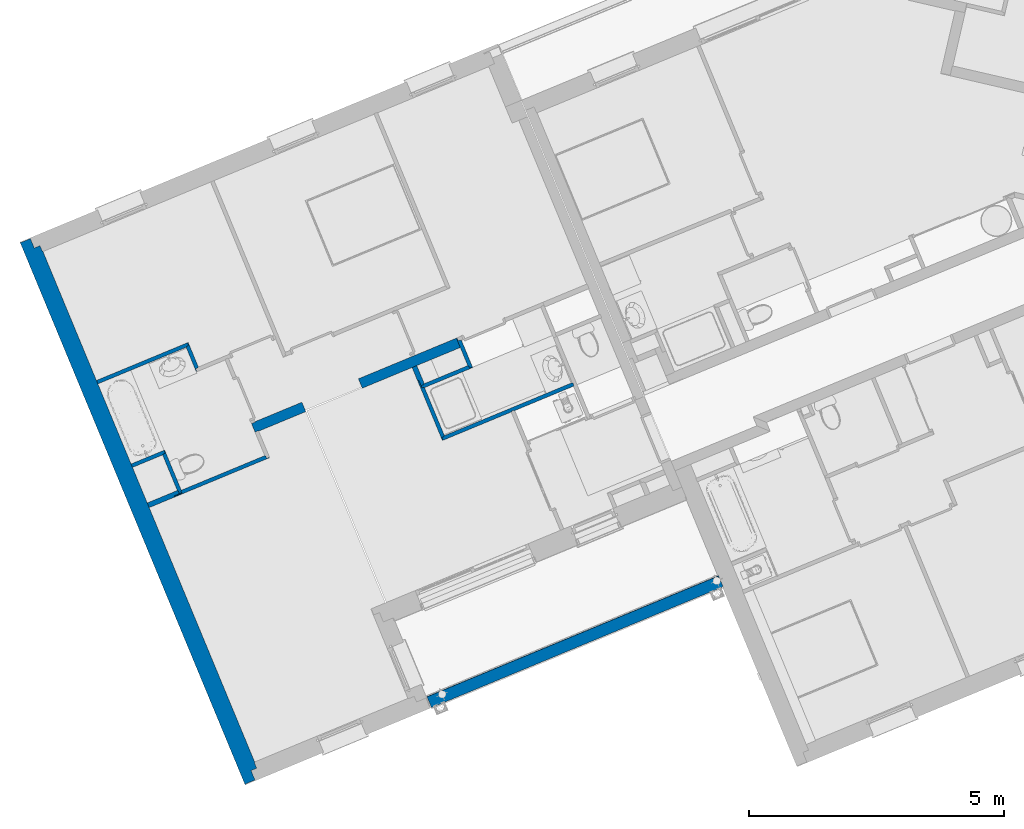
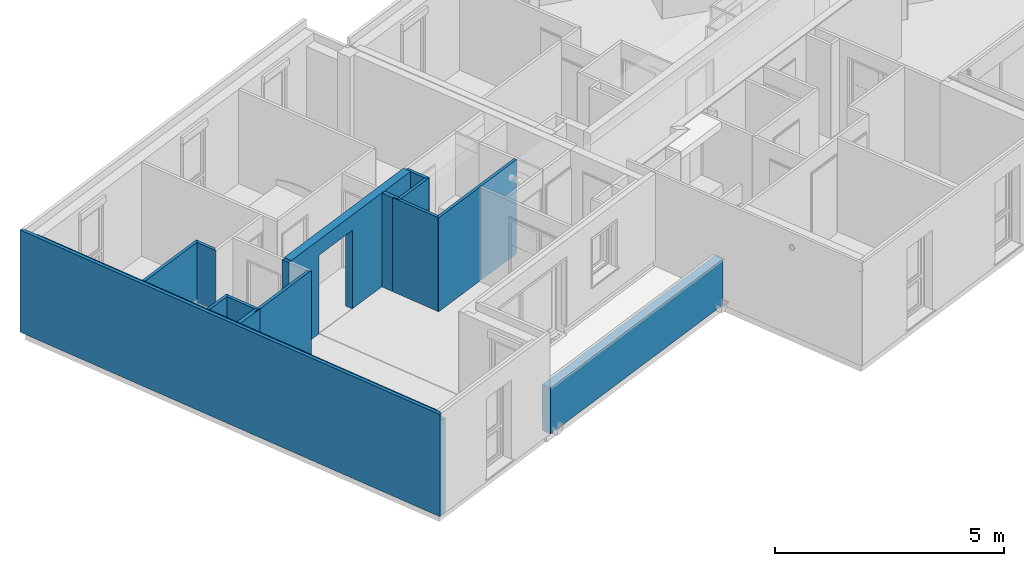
# One storey, part 35 of 91: 14 walls, 1 opening.
"""IFC2X3 building model written with IfcOpenShell, lengths in metres."""

from ifc_helpers import new_model, entity, si_unit, converted_unit, derived_unit, money_unit, direction, frame, origin_with_axes, place, context, subcontext, project, spatial, faceted_brep, material, material_list, type_object, element, save


model = new_model("IFC2X3")

# Units and contexts
model_context = context("Model", 3, precision=1e-05, world=origin_with_axes(), true_north=direction((0.0, 1.0)))
body_context = subcontext(model_context, "Body", "Model", "MODEL_VIEW")
ifc_project = project(units=[si_unit("LENGTHUNIT", "METRE"), si_unit("AREAUNIT", "SQUARE_METRE"), si_unit("VOLUMEUNIT", "CUBIC_METRE"), converted_unit("PLANEANGLEUNIT", "DEGREE", entity("IfcPlaneAngleMeasure", 0.0174532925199), si_unit("PLANEANGLEUNIT", "RADIAN"), dimensions=[0, 0, 0, 0, 0, 0, 0]), si_unit("SOLIDANGLEUNIT", "STERADIAN"), money_unit("EUR"), converted_unit("TIMEUNIT", "Year", entity("IfcTimeMeasure", 31556926.0), si_unit("TIMEUNIT", "SECOND"), dimensions=[0, 0, 1, 0, 0, 0, 0]), si_unit("MASSUNIT", "GRAM", prefix="KILO"), si_unit("THERMODYNAMICTEMPERATUREUNIT", "DEGREE_CELSIUS"), si_unit("LUMINOUSINTENSITYUNIT", "LUMEN"), si_unit("ENERGYUNIT", "JOULE", prefix="MEGA"), derived_unit("THERMALCONDUCTANCEUNIT", [(si_unit("POWERUNIT", "WATT"), 1), (si_unit("LENGTHUNIT", "METRE"), -1), (si_unit("THERMODYNAMICTEMPERATUREUNIT", "KELVIN"), -1)]), derived_unit("SPECIFICHEATCAPACITYUNIT", [(si_unit("ENERGYUNIT", "JOULE"), 1), (si_unit("MASSUNIT", "GRAM", prefix="KILO"), -1), (si_unit("THERMODYNAMICTEMPERATUREUNIT", "KELVIN"), -1)]), derived_unit("MASSDENSITYUNIT", [(si_unit("MASSUNIT", "GRAM", prefix="KILO"), 1), (si_unit("VOLUMEUNIT", "CUBIC_METRE"), -1)])], contexts=[model_context])

# Site, building, storey
site_placement = place(None, origin_with_axes())
site = spatial("IfcSite", under=ifc_project, at=site_placement, Name="Site", CompositionType="ELEMENT")
building_placement = place(site_placement, origin_with_axes())
building = spatial("IfcBuilding", under=site, at=building_placement, Name="Bâtiment", CompositionType="ELEMENT")
storey_placement = place(building_placement, frame((0.0, 0.0, 5.44), z_axis=(0.0, 0.0, 1.0), x_axis=(1.0, 0.0, 0.0)))
storey = spatial("IfcBuildingStorey", under=building, at=storey_placement, Name="R+2", CompositionType="ELEMENT", Elevation=5.44)

# Walls
ifc_material_1 = material(Name="Finition int - Plaque de plâtre")
ifc_material_2 = material(Name="Isolation - Polystyrène extrudé")
ifc_material_3 = material(Name="Bloc ELITHERM")
ifc_material_4 = material(Name="Isolation - Polystyrène expansé")
ifc_material_5 = material(Name="Mortier")
ifc_material_6 = material(Name="Béton cellulaire")
ifc_material_7 = material(Name="Finition ext - Crépis")
ifc_material_list_1 = material_list([ifc_material_1, ifc_material_2, ifc_material_3, ifc_material_4, ifc_material_5, ifc_material_6, ifc_material_7])
wall_type_1 = type_object("IfcWallType", Name="Mur ALKERN + planelle 21 345 x 2720", PredefinedType="USERDEFINED")
wall_1_placement = place(storey_placement, frame((-35.4006367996, -17.9386027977, 0.0), z_axis=(0.0, 0.0, 1.0), x_axis=(0.383112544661, -0.923701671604, 0.0)))
element("IfcWall", 1, at=wall_1_placement, inside=storey, type_object=wall_type_1, material=ifc_material_list_1, Name="Mue bloc ALKERN isolé", ObjectType="SOLIDWALL", context=body_context, shape_type="Brep", body=[
    faceted_brep([(11.1971872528, 0.34499998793, 0.0), (0.335000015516, 0.34499998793, 0.0), (0.335000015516, 0.34499998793, 2.51), (11.1971872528, 0.34499998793, 2.51), (11.1971872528, 0.335000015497, 0.0), (0.335000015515, 0.335000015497, 0.0), (0.335000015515, 0.335000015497, 2.51), (11.1971872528, 0.335000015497, 2.51)], [[[0, 1, 2, 3]], [[4, 5, 1, 0]], [[5, 6, 2, 1]], [[3, 2, 6, 7]], [[4, 0, 3, 7]], [[7, 6, 5, 4]]]),
    faceted_brep([(11.3171872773, 0.335000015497, 0.0), (0.214999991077, 0.335000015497, 0.0), (0.214999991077, 0.335000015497, 2.50999999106), (11.3171872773, 0.335000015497, 2.50999999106), (11.3171872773, 0.215000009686, 0.0), (0.214999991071, 0.215000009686, 0.0), (0.214999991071, 0.215000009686, 2.50999999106), (11.3171872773, 0.215000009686, 2.50999999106)], [[[0, 1, 2, 3]], [[4, 5, 1, 0]], [[5, 6, 2, 1]], [[3, 2, 6, 7]], [[4, 0, 3, 7]], [[7, 6, 5, 4]]]),
    faceted_brep([(0.0149999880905, 0.214999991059, 0.0), (0.0149999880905, 0.214999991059, 2.50999999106), (11.5171872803, 0.214999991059, 2.50999999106), (11.5171872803, 0.214999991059, 0.0), (0.0149999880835, 0.0829999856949, 2.50999999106), (0.0149999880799, 0.015, 0.0), (0.0149999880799, 0.015, 2.50999999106), (11.5171872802, 0.0829999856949, 2.50999999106), (11.5171872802, 0.015, 2.50999999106), (11.5171872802, 0.015, 0.0)], [[[0, 1, 2, 3]], [[4, 1, 0, 5, 6]], [[1, 4, 7, 2]], [[3, 2, 7, 8, 9]], [[5, 0, 3, 9]], [[6, 5, 9, 8]], [[4, 6, 8, 7]]]),
    faceted_brep([(11.4691872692, 0.083000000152, 2.51999999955), (0.0629999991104, 0.083000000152, 2.51999999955), (0.0629999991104, 0.083000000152, 2.72), (11.4691872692, 0.083000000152, 2.72), (11.4691872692, 0.0630000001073, 2.51999999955), (0.0629999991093, 0.0630000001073, 2.51999999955), (0.0629999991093, 0.0630000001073, 2.72), (11.4691872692, 0.0630000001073, 2.72)], [[[0, 1, 2, 3]], [[4, 5, 1, 0]], [[5, 6, 2, 1]], [[3, 2, 6, 7]], [[4, 0, 3, 7]], [[7, 6, 5, 4]]]),
    faceted_brep([(0.0149999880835, 0.083, 2.50999999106), (0.0149999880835, 0.083, 2.51999999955), (11.5171872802, 0.083, 2.51999999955), (11.5171872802, 0.083, 2.50999999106), (0.0149999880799, 0.015, 2.51999999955), (0.0149999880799, 0.015, 2.50999999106), (11.5171872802, 0.015, 2.51999999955), (11.5171872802, 0.015, 2.50999999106)], [[[0, 1, 2, 3]], [[4, 1, 0, 5]], [[1, 4, 6, 2]], [[3, 2, 6, 7]], [[5, 0, 3, 7]], [[4, 5, 7, 6]]]),
    faceted_brep([(0.0149999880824, 0.0629999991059, 2.51999999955), (0.0149999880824, 0.0629999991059, 2.72), (11.5171872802, 0.0629999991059, 2.72), (11.5171872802, 0.0629999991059, 2.51999999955), (0.0149999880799, 0.015, 2.72), (0.0149999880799, 0.015, 2.51999999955), (11.5171872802, 0.015, 2.72), (11.5171872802, 0.015, 2.51999999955)], [[[0, 1, 2, 3]], [[4, 1, 0, 5]], [[1, 4, 6, 2]], [[3, 2, 6, 7]], [[5, 0, 3, 7]], [[4, 5, 7, 6]]]),
    faceted_brep([(11.5321872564, 0.0149999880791, 0.0), (7.00435975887e-09, 0.0149999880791, 0.0), (7.00435975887e-09, 0.0149999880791, 2.72), (11.5321872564, 0.0149999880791, 2.72), (11.5321872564, 0.0, 0.0), (7.00355329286e-09, 0.0, 0.0), (7.00355329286e-09, 0.0, 2.72), (11.5321872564, 0.0, 2.72)], [[[0, 1, 2, 3]], [[4, 5, 1, 0]], [[5, 6, 2, 1]], [[3, 2, 6, 7]], [[4, 0, 3, 7]], [[7, 6, 5, 4]]]),
])
ifc_material_8 = material(Name="Isolation - Laine de roche")
ifc_material_list_2 = material_list([ifc_material_1, ifc_material_8, ifc_material_1])
wall_type_2 = type_object("IfcWallType", Name="3 - Cloison 72mm Placostil 74", PredefinedType="USERDEFINED")
wall_2_placement = place(storey_placement, frame((-27.532079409, -20.8233504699, 0.0), z_axis=(0.0, 0.0, 1.0), x_axis=(0.383112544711, -0.923701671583, 0.0)))
element("IfcWall", 2, at=wall_2_placement, inside=storey, type_object=wall_type_2, material=ifc_material_list_2, Name="Cloison Placostil 72/48", ObjectType="PARTITIONING", context=body_context, shape_type="Brep", body=[
    faceted_brep([(1.01999999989, 0.074, 0.0), (0.0, 0.074, 0.0), (0.0, 0.074, 2.5), (1.01999999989, 0.074, 2.5), (1.0199999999, 0.061, 0.0), (0.0, 0.061, 0.0), (0.0, 0.061, 2.5), (1.0199999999, 0.061, 2.5)], [[[0, 1, 2, 3]], [[4, 5, 1, 0]], [[5, 6, 2, 1]], [[3, 2, 6, 7]], [[3, 7, 4, 0]], [[7, 6, 5, 4]]]),
    faceted_brep([(1.0329999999, 0.061, 0.0), (-0.0130000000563, 0.061, 0.0), (-0.0130000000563, 0.061, 2.5), (1.0329999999, 0.061, 2.5), (-0.174000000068, 0.026, 0.0), (-0.013000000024, 0.026, 0.0), (1.03299999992, 0.013, 0.0), (-0.174000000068, 0.013, 0.0), (-0.013000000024, 0.026, 2.5), (-0.174000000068, 0.026, 2.5), (-0.174000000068, 0.013, 2.5), (1.03299999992, 0.013, 2.5)], [[[0, 1, 2, 3]], [[4, 5, 1, 0, 6, 7]], [[5, 8, 2, 1]], [[2, 8, 9, 10, 11, 3]], [[3, 11, 6, 0]], [[4, 9, 8, 5]], [[11, 10, 7, 6]], [[10, 9, 4, 7]]]),
    faceted_brep([(1.08099999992, 0.0, 0.0), (-0.174000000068, 0.0, 0.0), (-0.174000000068, 0.013, 0.0), (1.08099999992, 0.013, 0.0), (1.08099999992, 0.0, 2.5), (-0.174000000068, 0.0, 2.5), (-0.174000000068, 0.013, 2.5), (1.08099999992, 0.013, 2.5)], [[[0, 1, 2, 3]], [[4, 5, 1, 0]], [[1, 5, 6, 2]], [[3, 2, 6, 7]], [[7, 4, 0, 3]], [[7, 6, 5, 4]]]),
])
wall_3_placement = place(storey_placement, frame((-24.5395214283, -20.766528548, 0.0), z_axis=(0.0, 0.0, 1.0), x_axis=(-0.923701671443, -0.383112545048, 0.0)))
element("IfcWall", 3, at=wall_3_placement, inside=storey, type_object=wall_type_2, material=ifc_material_list_2, Name="Cloison Placostil 72/48", ObjectType="PARTITIONING", context=body_context, shape_type="Brep", body=[
    faceted_brep([(1.26300000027, -0.013, 2.5), (1.26300000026, 0.0, 2.5), (0.0, 0.0, 2.5), (0.0, -0.013, 2.5), (1.26300000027, -0.013, 0.0), (1.26300000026, 0.0, 0.0), (0.0, 0.0, 0.0), (0.0, -0.013, 0.0)], [[[0, 1, 2, 3]], [[1, 0, 4, 5]], [[1, 5, 6, 2]], [[7, 3, 2, 6]], [[4, 0, 3, 7]], [[5, 4, 7, 6]]]),
    faceted_brep([(2.78600000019, -0.013, 2.5), (2.78600000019, 0.0, 2.5), (1.31100000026, 0.0, 2.5), (1.31100000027, -0.013, 2.5), (2.78600000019, -0.013, 0.0), (2.78600000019, 0.0, 0.0), (1.31100000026, 0.0, 0.0), (1.31100000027, -0.013, 0.0)], [[[0, 1, 2, 3]], [[1, 0, 4, 5]], [[1, 5, 6, 2]], [[7, 3, 2, 6]], [[4, 0, 3, 7]], [[5, 4, 7, 6]]]),
    faceted_brep([(2.77300000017, -0.061, 2.5), (2.77300000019, -0.013, 2.5), (-0.0130000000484, -0.013, 2.5), (-0.0130000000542, -0.061, 2.5), (2.77300000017, -0.061, 0.0), (2.77300000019, -0.013, 0.0), (-0.0130000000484, -0.013, 0.0), (-0.0130000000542, -0.061, 0.0)], [[[0, 1, 2, 3]], [[1, 0, 4, 5]], [[1, 5, 6, 2]], [[7, 3, 2, 6]], [[4, 0, 3, 7]], [[5, 4, 7, 6]]]),
    faceted_brep([(2.72500000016, -0.074, 2.5), (2.72500000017, -0.061, 2.5), (0.0, -0.061, 2.5), (0.0, -0.074, 2.5), (2.72500000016, -0.074, 0.0), (2.72500000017, -0.061, 0.0), (0.0, -0.061, 0.0), (0.0, -0.074, 0.0)], [[[0, 1, 2, 3]], [[1, 0, 4, 5]], [[1, 5, 6, 2]], [[7, 3, 2, 6]], [[4, 0, 3, 7]], [[5, 4, 7, 6]]]),
])
wall_4_placement = place(storey_placement, frame((-30.5010440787, -22.1691142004, 0.0), z_axis=(0.0, 0.0, 1.0), x_axis=(-0.923701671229, -0.383112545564, 0.0)))
element("IfcWall", 4, at=wall_4_placement, inside=storey, type_object=wall_type_2, material=ifc_material_list_2, Name="Cloison Placostil 72/48", ObjectType="PARTITIONING", context=body_context, shape_type="Brep", body=[
    faceted_brep([(0.0129999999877, -0.013, 2.5), (1.84700000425, -0.013, 2.5), (1.84700000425, 0.0, 2.5), (0.013, 0.0, 2.5), (0.0129999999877, -0.013, 0.0), (1.84700000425, -0.013, 0.0), (1.84700000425, 0.0, 0.0), (0.013, 0.0, 0.0)], [[[0, 1, 2, 3]], [[4, 5, 1, 0]], [[5, 6, 2, 1]], [[3, 2, 6, 7]], [[4, 0, 3, 7]], [[7, 6, 5, 4]]]),
    faceted_brep([(1.86000000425, -0.061, 2.5), (1.86000000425, -0.026, 2.5), (1.90800000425, -0.026, 2.5), (2.02100000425, -0.026, 2.5), (2.02100000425, -0.013, 2.5), (0.0609999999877, -0.013, 2.5), (0.0609999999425, -0.061, 2.5), (1.86000000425, -0.026, 0.0), (1.86000000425, -0.061, 0.0), (1.90800000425, -0.026, 0.0), (2.02100000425, -0.026, 0.0), (2.02100000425, -0.013, 0.0), (0.0609999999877, -0.013, 0.0), (0.0609999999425, -0.061, 0.0)], [[[0, 1, 2, 3, 4, 5, 6]], [[7, 1, 0, 8]], [[3, 2, 1, 7, 9, 10]], [[4, 3, 10, 11]], [[11, 12, 5, 4]], [[13, 6, 5, 12]], [[13, 8, 0, 6]], [[9, 7, 8, 13, 12, 11, 10]]]),
    faceted_brep([(0.0739999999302, -0.074, 2.5), (1.84700000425, -0.074, 2.5), (1.84700000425, -0.061, 2.5), (0.0739999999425, -0.061, 2.5), (0.0739999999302, -0.074, 0.0), (1.84700000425, -0.074, 0.0), (1.84700000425, -0.061, 0.0), (0.0739999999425, -0.061, 0.0)], [[[0, 1, 2, 3]], [[4, 5, 1, 0]], [[5, 6, 2, 1]], [[3, 2, 6, 7]], [[4, 0, 3, 7]], [[7, 6, 5, 4]]]),
])
wall_5_placement = place(storey_placement, frame((-32.1693082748, -19.9357791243, 0.0), z_axis=(0.0, 0.0, 1.0), x_axis=(0.383112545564, -0.923701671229, 0.0)))
element("IfcWall", 5, at=wall_5_placement, inside=storey, type_object=wall_type_2, material=ifc_material_list_2, Name="Cloison Placostil 72/48", ObjectType="PARTITIONING", context=body_context, shape_type="Brep", body=[
    faceted_brep([(0.523282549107, 0.074, 0.0), (0.523282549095, 0.061, 0.0), (0.0130000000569, 0.061, 0.0), (0.013000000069, 0.074, 0.0), (0.523282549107, 0.074, 2.5), (0.523282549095, 0.061, 2.5), (0.0130000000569, 0.061, 2.5), (0.013000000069, 0.074, 2.5)], [[[0, 1, 2, 3]], [[1, 0, 4, 5]], [[1, 5, 6, 2]], [[7, 3, 2, 6]], [[4, 0, 3, 7]], [[5, 4, 7, 6]]]),
    faceted_brep([(0.536282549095, 0.061, 0.0), (0.536282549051, 0.013, 0.0), (0.0610000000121, 0.013, 0.0), (0.0610000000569, 0.061, 0.0), (0.536282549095, 0.061, 2.5), (0.536282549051, 0.013, 2.5), (0.0610000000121, 0.013, 2.5), (0.0610000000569, 0.061, 2.5)], [[[0, 1, 2, 3]], [[1, 0, 4, 5]], [[1, 5, 6, 2]], [[7, 3, 2, 6]], [[4, 0, 3, 7]], [[5, 4, 7, 6]]]),
    faceted_brep([(0.584282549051, 0.013, 0.0), (0.584282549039, 0.0, 0.0), (0.074, 0.0, 0.0), (0.0740000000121, 0.013, 0.0), (0.584282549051, 0.013, 2.5), (0.584282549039, 0.0, 2.5), (0.074, 0.0, 2.5), (0.0740000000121, 0.013, 2.5)], [[[0, 1, 2, 3]], [[1, 0, 4, 5]], [[1, 5, 6, 2]], [[7, 3, 2, 6]], [[4, 0, 3, 7]], [[5, 4, 7, 6]]]),
])
wall_6_placement = place(storey_placement, frame((-33.9009166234, -20.6539773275, 0.0), z_axis=(0.0, 0.0, 1.0), x_axis=(0.923701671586, 0.383112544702, 0.0)))
element("IfcWall", 6, at=wall_6_placement, inside=storey, type_object=wall_type_2, material=ifc_material_list_2, Name="Cloison Placostil 72/48", ObjectType="PARTITIONING", context=body_context, shape_type="Brep", body=[
    faceted_brep([(1.94864026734, -0.013, 2.5), (1.94864026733, 0.0, 2.5), (0.0, 0.0, 2.5), (0.0, -0.013, 2.5), (1.94864026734, -0.013, 0.0), (1.94864026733, 0.0, 0.0), (0.0, 0.0, 0.0), (0.0, -0.013, 0.0)], [[[0, 1, 2, 3]], [[1, 0, 4, 5]], [[1, 5, 6, 2]], [[7, 3, 2, 6]], [[4, 0, 3, 7]], [[5, 4, 7, 6]]]),
    faceted_brep([(1.93564026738, -0.061, 2.5), (1.93564026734, -0.013, 2.5), (0.0, -0.013, 2.5), (0.0, -0.061, 2.5), (1.93564026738, -0.061, 0.0), (1.93564026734, -0.013, 0.0), (0.0, -0.013, 0.0), (0.0, -0.061, 0.0)], [[[0, 1, 2, 3]], [[1, 0, 4, 5]], [[1, 5, 6, 2]], [[7, 3, 2, 6]], [[4, 0, 3, 7]], [[5, 4, 7, 6]]]),
    faceted_brep([(1.8876402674, -0.074, 2.5), (1.88764026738, -0.061, 2.5), (0.0, -0.061, 2.5), (0.0, -0.074, 2.5), (1.8876402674, -0.074, 0.0), (1.88764026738, -0.061, 0.0), (0.0, -0.061, 0.0), (0.0, -0.074, 0.0)], [[[0, 1, 2, 3]], [[1, 0, 4, 5]], [[1, 5, 6, 2]], [[7, 3, 2, 6]], [[4, 0, 3, 7]], [[5, 4, 7, 6]]]),
])

# Wall, opening
ifc_material_9 = material(Name="Finition int - Enduit plâtre")
ifc_material_10 = material(Name="Béton")
ifc_material_list_3 = material_list([ifc_material_9, ifc_material_10, ifc_material_9])
wall_type_3 = type_object("IfcWallType", Name="2 - Murs Béton 18 + Enduit 2 Faces 200", PredefinedType="USERDEFINED")
wall_7_placement = place(storey_placement, frame((-30.7876122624, -21.4781853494, 0.0), z_axis=(0.0, 0.0, 1.0), x_axis=(0.923701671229, 0.383112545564, 0.0)))
wall_7 = element("IfcWall", 7, at=wall_7_placement, inside=storey, type_object=wall_type_3, material=ifc_material_list_3, Name="M_Ext-008", ObjectType="SOLIDWALL", context=body_context, shape_type="Brep", body=[
    faceted_brep([(1.00001659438, 0.005, 0.02), (1.00001659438, 0.005, 2.1), (2.20001659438, 0.005, 2.1), (2.20001659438, 0.005, 0.02), (4.28201659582, 0.005, 0.02), (4.28201659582, 0.005, 2.51), (0.0, 0.005, 2.51), (0.0, 0.005, 2.5), (0.0, 0.005, 0.02), (1.00001659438, 0.015, 0.02), (1.00001659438, 0.015, 2.1), (2.20001659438, 0.015, 2.1), (2.20001659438, 0.015, 0.02), (4.28201659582, 0.015, 0.02), (4.28201659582, 0.015, 2.51), (0.0, 0.015, 2.51), (0.0, 0.015, 2.5), (0.0, 0.015, 0.02)], [[[0, 1, 2, 3, 4, 5, 6, 7, 8]], [[1, 0, 9, 10]], [[2, 1, 10, 11]], [[3, 2, 11, 12]], [[3, 12, 13, 4]], [[13, 14, 5, 4]], [[14, 15, 6, 5]], [[16, 7, 6, 15]], [[8, 7, 16, 17]], [[9, 0, 8, 17]], [[10, 9, 17, 16, 15, 14, 13, 12, 11]]]),
    faceted_brep([(1.00001659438, -0.175, 0.0), (1.00001659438, -0.175, 2.1), (2.20001659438, -0.175, 2.1), (2.20001659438, -0.175, 0.0), (4.28201659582, -0.175, 0.0), (4.28201659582, -0.175, 2.51), (0.0, -0.175, 2.51), (0.0, -0.175, 2.5), (-0.0740000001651, -0.175, 2.5), (-0.0740000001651, -0.175, 0.0), (1.00001659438, 0.005, 0.0), (1.00001659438, 0.005, 2.1), (2.20001659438, 0.005, 2.1), (2.20001659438, 0.005, 0.0), (4.28201659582, 0.005, 0.0), (4.28201659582, 0.005, 2.51), (0.0, 0.005, 2.51), (0.0, 0.005, 2.5), (-0.0739999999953, 0.005, 2.5), (-0.0739999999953, 0.005, 0.0)], [[[0, 1, 2, 3, 4, 5, 6, 7, 8, 9]], [[1, 0, 10, 11]], [[2, 1, 11, 12]], [[3, 2, 12, 13]], [[3, 13, 14, 4]], [[15, 5, 4, 14]], [[16, 6, 5, 15]], [[7, 6, 16, 17]], [[18, 8, 7, 17]], [[9, 8, 18, 19]], [[10, 0, 9, 19]], [[11, 10, 19, 18, 17, 16, 15, 14, 13, 12]]]),
    faceted_brep([(1.00001659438, -0.185, 0.02), (1.00001659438, -0.185, 2.1), (2.20001659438, -0.185, 2.1), (2.20001659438, -0.185, 0.02), (4.28201659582, -0.185, 0.02), (4.28201659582, -0.185, 2.51), (0.0, -0.185, 2.51), (-1.74480874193e-10, -0.185, 2.5), (-1.74480874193e-10, -0.185, 0.02), (1.00001659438, -0.175, 0.02), (1.00001659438, -0.175, 2.1), (2.20001659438, -0.175, 2.1), (2.20001659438, -0.175, 0.02), (4.28201659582, -0.175, 0.02), (4.28201659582, -0.175, 2.51), (0.0, -0.175, 2.51), (-1.65044866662e-10, -0.175, 2.5), (-1.65044866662e-10, -0.175, 0.02)], [[[0, 1, 2, 3, 4, 5, 6, 7, 8]], [[1, 0, 9, 10]], [[2, 1, 10, 11]], [[3, 2, 11, 12]], [[3, 12, 13, 4]], [[13, 14, 5, 4]], [[14, 15, 6, 5]], [[16, 7, 6, 15]], [[8, 7, 16, 17]], [[9, 0, 8, 17]], [[10, 9, 17, 16, 15, 14, 13, 12, 11]]]),
])
opening_placement = place(wall_7_placement, frame((1.60001659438, 0.0, 0.0), z_axis=(0.0, 0.0, 1.0), x_axis=(1.0, 0.0, 0.0)))
element("IfcOpeningElement", 8, at=opening_placement, cuts=wall_7, Name="Por-003", context=body_context, shape_type="Brep", body=[
    faceted_brep([(0.6, 0.4, 0.0), (0.6, 0.4, 2.1), (0.6, -0.2, 2.1), (0.6, -0.2, 0.0), (-0.6, 0.4, 0.0), (-0.6, 0.4, 2.1), (-0.6, -0.2, 2.1), (-0.6, -0.2, 0.0)], [[[0, 1, 2, 3]], [[0, 4, 5, 1]], [[1, 5, 6, 2]], [[3, 2, 6, 7]], [[4, 0, 3, 7]], [[5, 4, 7, 6]]]),
])

# Walls
wall_type_4 = type_object("IfcWallType", Name="3 - Cloison Gaine Technique 72mm 74", PredefinedType="USERDEFINED")
wall_8_placement = place(storey_placement, frame((-32.5626756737, -22.0194648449, 0.0), z_axis=(0.0, 0.0, 1.0), x_axis=(0.383112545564, -0.923701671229, 0.0)))
element("IfcWall", 9, at=wall_8_placement, inside=storey, type_object=wall_type_4, material=ifc_material_list_2, Name="Cloison Placostil 72/48", ObjectType="PARTITIONING", context=body_context, shape_type="Brep", body=[
    faceted_brep([(0.013, -0.013, 2.5), (0.867068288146, -0.013, 2.5), (0.867068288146, 0.0, 2.5), (0.013, 0.0, 2.5), (0.013, -0.013, 0.0), (0.867068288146, -0.013, 0.0), (0.867068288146, 0.0, 0.0), (0.013, 0.0, 0.0)], [[[0, 1, 2, 3]], [[4, 5, 1, 0]], [[5, 6, 2, 1]], [[3, 2, 6, 7]], [[7, 4, 0, 3]], [[7, 6, 5, 4]]]),
    faceted_brep([(0.061, -0.061, 2.5), (0.902068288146, -0.061, 2.5), (0.902068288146, -0.013, 2.5), (0.061, -0.013, 2.5), (0.061, -0.061, 0.0), (0.902068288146, -0.061, 0.0), (0.902068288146, -0.013, 0.0), (0.061, -0.013, 0.0)], [[[0, 1, 2, 3]], [[4, 5, 1, 0]], [[6, 2, 1, 5]], [[3, 2, 6, 7]], [[7, 4, 0, 3]], [[7, 6, 5, 4]]]),
    faceted_brep([(0.074, -0.074, 2.5), (0.841068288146, -0.074, 2.5), (0.841068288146, -0.061, 2.5), (0.074, -0.061, 2.5), (0.074, -0.074, 0.0), (0.841068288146, -0.074, 0.0), (0.841068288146, -0.061, 0.0), (0.074, -0.061, 0.0)], [[[0, 1, 2, 3]], [[4, 5, 1, 0]], [[6, 2, 1, 5]], [[3, 2, 6, 7]], [[7, 4, 0, 3]], [[7, 6, 5, 4]]]),
])
wall_9_placement = place(storey_placement, frame((-26.5178549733, -20.4026928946, 0.0), z_axis=(0.0, 0.0, 1.0), x_axis=(-0.923701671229, -0.383112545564, 0.0)))
element("IfcWall", 10, at=wall_9_placement, inside=storey, type_object=wall_type_4, material=ifc_material_list_2, Name="Cloison Placostil 72/48", ObjectType="PARTITIONING", context=body_context, shape_type="Brep", body=[
    faceted_brep([(0.013, -0.013, 2.5), (1.03700000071, -0.013, 2.5), (1.03700000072, 0.0, 2.5), (0.013, 0.0, 2.5), (0.013, -0.013, 0.0), (1.03700000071, -0.013, 0.0), (1.03700000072, 0.0, 0.0), (0.013, 0.0, 0.0)], [[[0, 1, 2, 3]], [[4, 5, 1, 0]], [[5, 6, 2, 1]], [[3, 2, 6, 7]], [[7, 4, 0, 3]], [[7, 6, 5, 4]]]),
    faceted_brep([(0.061, -0.061, 2.5), (1.07200000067, -0.061, 2.5), (1.07200000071, -0.013, 2.5), (0.061, -0.013, 2.5), (0.061, -0.061, 0.0), (1.07200000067, -0.061, 0.0), (1.07200000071, -0.013, 0.0), (0.061, -0.013, 0.0)], [[[0, 1, 2, 3]], [[4, 5, 1, 0]], [[6, 2, 1, 5]], [[3, 2, 6, 7]], [[7, 4, 0, 3]], [[7, 6, 5, 4]]]),
    faceted_brep([(0.074, -0.074, 2.5), (1.01100000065, -0.074, 2.5), (1.01100000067, -0.061, 2.5), (0.074, -0.061, 2.5), (0.074, -0.074, 0.0), (1.01100000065, -0.074, 0.0), (1.01100000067, -0.061, 0.0), (0.074, -0.061, 0.0)], [[[0, 1, 2, 3]], [[4, 5, 1, 0]], [[6, 2, 1, 5]], [[3, 2, 6, 7]], [[7, 4, 0, 3]], [[7, 6, 5, 4]]]),
])
wall_10_placement = place(storey_placement, frame((-26.7413488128, -19.8638391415, 0.0), z_axis=(0.0, 0.0, 1.0), x_axis=(0.383112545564, -0.923701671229, 0.0)))
element("IfcWall", 11, at=wall_10_placement, inside=storey, type_object=wall_type_4, material=ifc_material_list_2, Name="Cloison Placostil 72/48", ObjectType="PARTITIONING", context=body_context, shape_type="Brep", body=[
    faceted_brep([(0.583363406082, -0.013, 2.5), (0.583363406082, 0.0, 2.5), (0.0, 0.0, 2.5), (0.0, -0.013, 2.5), (0.583363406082, -0.013, 0.0), (0.583363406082, 0.0, 0.0), (0.0, 0.0, 0.0), (0.0, -0.013, 0.0)], [[[0, 1, 2, 3]], [[1, 0, 4, 5]], [[1, 5, 6, 2]], [[7, 3, 2, 6]], [[4, 0, 3, 7]], [[5, 4, 7, 6]]]),
    faceted_brep([(0.570363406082, -0.061, 2.5), (0.570363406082, -0.013, 2.5), (-0.013, -0.013, 2.5), (-0.013, -0.061, 2.5), (0.570363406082, -0.061, 0.0), (0.570363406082, -0.013, 0.0), (-0.013, -0.013, 0.0), (-0.013, -0.061, 0.0)], [[[0, 1, 2, 3]], [[1, 0, 4, 5]], [[1, 5, 6, 2]], [[7, 3, 2, 6]], [[4, 0, 3, 7]], [[5, 4, 7, 6]]]),
    faceted_brep([(0.522363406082, -0.074, 2.5), (0.522363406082, -0.061, 2.5), (-0.061, -0.061, 2.5), (-0.061, -0.074, 2.5), (0.522363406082, -0.074, 0.0), (0.522363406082, -0.061, 0.0), (-0.061, -0.061, 0.0), (-0.061, -0.074, 0.0)], [[[0, 1, 2, 3]], [[1, 0, 4, 5]], [[1, 5, 6, 2]], [[7, 3, 2, 6]], [[4, 0, 3, 7]], [[5, 4, 7, 6]]]),
])
wall_11_placement = place(storey_placement, frame((-33.2212749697, -22.2926240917, 0.0), z_axis=(0.0, 0.0, 1.0), x_axis=(0.923701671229, 0.383112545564, 0.0)))
element("IfcWall", 12, at=wall_11_placement, inside=storey, type_object=wall_type_4, material=ifc_material_list_2, Name="Cloison Placostil 72/48", ObjectType="PARTITIONING", context=body_context, shape_type="Brep", body=[
    faceted_brep([(0.713000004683, -0.013, 2.5), (0.713000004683, 0.0, 2.5), (0.0, 0.0, 2.5), (0.0, -0.013, 2.5), (0.713000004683, -0.013, 0.0), (0.713000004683, 0.0, 0.0), (0.0, 0.0, 0.0), (0.0, -0.013, 0.0)], [[[0, 1, 2, 3]], [[1, 0, 4, 5]], [[1, 5, 6, 2]], [[7, 3, 2, 6]], [[4, 0, 3, 7]], [[5, 4, 7, 6]]]),
    faceted_brep([(0.700000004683, -0.061, 2.5), (0.700000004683, -0.013, 2.5), (0.0, -0.013, 2.5), (0.0, -0.061, 2.5), (0.700000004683, -0.061, 0.0), (0.700000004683, -0.013, 0.0), (0.0, -0.013, 0.0), (0.0, -0.061, 0.0)], [[[0, 1, 2, 3]], [[1, 0, 4, 5]], [[1, 5, 6, 2]], [[7, 3, 2, 6]], [[4, 0, 3, 7]], [[5, 4, 7, 6]]]),
    faceted_brep([(0.652000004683, -0.074, 2.5), (0.652000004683, -0.061, 2.5), (0.0, -0.061, 2.5), (0.0, -0.074, 2.5), (0.652000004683, -0.074, 0.0), (0.652000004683, -0.061, 0.0), (0.0, -0.061, 0.0), (0.0, -0.074, 0.0)], [[[0, 1, 2, 3]], [[1, 0, 4, 5]], [[1, 5, 6, 2]], [[7, 3, 2, 6]], [[4, 0, 3, 7]], [[5, 4, 7, 6]]]),
])
ifc_material_list_4 = material_list([ifc_material_1, ifc_material_1, ifc_material_8, ifc_material_1, ifc_material_1])
wall_type_5 = type_object("IfcWallType", Name="3 - Cloison Gaine Technique 98mm 100", PredefinedType="USERDEFINED")
wall_12_placement = place(storey_placement, frame((-27.7073010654, -20.400883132, 0.0), z_axis=(0.0, 0.0, 1.0), x_axis=(0.383112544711, -0.923701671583, 0.0)))
element("IfcWall", 13, at=wall_12_placement, inside=storey, type_object=wall_type_5, material=ifc_material_list_4, Name="Cloison 98 isolée", ObjectType="PARTITIONING", context=body_context, shape_type="Brep", body=[
    faceted_brep([(0.0, 0.1, 0.0), (0.383363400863, 0.1, 0.0), (0.383363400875, 0.087, 0.0), (0.0, 0.087, 0.0), (0.0, 0.1, 2.5), (0.383363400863, 0.1, 2.5), (0.383363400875, 0.087, 2.5), (0.0, 0.087, 2.5)], [[[0, 1, 2, 3]], [[4, 5, 1, 0]], [[6, 2, 1, 5]], [[3, 2, 6, 7]], [[7, 4, 0, 3]], [[7, 6, 5, 4]]]),
    faceted_brep([(0.0, 0.087, 0.0), (0.396363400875, 0.087, 0.0), (0.396363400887, 0.074, 0.0), (0.0, 0.074, 0.0), (0.0, 0.087, 2.5), (0.396363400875, 0.087, 2.5), (0.396363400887, 0.074, 2.5), (0.0, 0.074, 2.5)], [[[0, 1, 2, 3]], [[4, 5, 1, 0]], [[6, 2, 1, 5]], [[3, 2, 6, 7]], [[7, 4, 0, 3]], [[7, 6, 5, 4]]]),
    faceted_brep([(0.0, 0.074, 0.0), (0.396363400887, 0.074, 0.0), (0.396363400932, 0.026, 0.0), (0.0, 0.026, 0.0), (0.0, 0.074, 2.5), (0.396363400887, 0.074, 2.5), (0.396363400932, 0.026, 2.5), (0.0, 0.026, 2.5)], [[[0, 1, 2, 3]], [[4, 5, 1, 0]], [[6, 2, 1, 5]], [[3, 2, 6, 7]], [[7, 4, 0, 3]], [[7, 6, 5, 4]]]),
    faceted_brep([(0.0, 0.013, 2.5), (0.283363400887, 0.013, 2.5), (0.283363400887, 0.026, 2.5), (0.0, 0.026, 2.5), (0.0, 0.013, 0.0), (0.283363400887, 0.013, 0.0), (0.283363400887, 0.026, 0.0), (0.0, 0.026, 0.0)], [[[0, 1, 2, 3]], [[4, 5, 1, 0]], [[5, 6, 2, 1]], [[3, 2, 6, 7]], [[0, 3, 7, 4]], [[7, 6, 5, 4]]]),
    faceted_brep([(0.0, 0.0, 2.5), (0.283363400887, 0.0, 2.5), (0.283363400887, 0.013, 2.5), (0.0, 0.013, 2.5), (0.0, 0.0, 0.0), (0.283363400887, 0.0, 0.0), (0.283363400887, 0.013, 0.0), (0.0, 0.013, 0.0)], [[[0, 1, 2, 3]], [[4, 5, 1, 0]], [[5, 6, 2, 1]], [[3, 2, 6, 7]], [[0, 3, 7, 4]], [[7, 6, 5, 4]]]),
])
wall_13_placement = place(storey_placement, frame((-32.2071210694, -22.8767230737, 0.0), z_axis=(0.0, 0.0, 1.0), x_axis=(-0.923701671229, -0.383112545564, 0.0)))
element("IfcWall", 14, at=wall_13_placement, inside=storey, type_object=wall_type_5, material=ifc_material_list_4, Name="Cloison 98 isolée", ObjectType="PARTITIONING", context=body_context, shape_type="Brep", body=[
    faceted_brep([(0.0, 0.0, 2.5), (0.0, -0.013, 2.5), (0.712999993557, -0.013, 2.5), (0.712999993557, 0.0, 2.5), (0.0, 0.0, 0.0), (0.0, -0.013, 0.0), (0.712999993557, -0.013, 0.0), (0.712999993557, 0.0, 0.0)], [[[0, 1, 2, 3]], [[4, 5, 1, 0]], [[1, 5, 6, 2]], [[7, 3, 2, 6]], [[4, 0, 3, 7]], [[5, 4, 7, 6]]]),
    faceted_brep([(0.712999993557, -0.013, 0.0), (0.174, -0.013, 0.0), (0.174, -0.013, 2.5), (0.712999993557, -0.013, 2.5), (0.712999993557, -0.026, 0.0), (0.174, -0.026, 0.0), (0.174, -0.026, 2.5), (0.712999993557, -0.026, 2.5)], [[[0, 1, 2, 3]], [[4, 5, 1, 0]], [[5, 6, 2, 1]], [[3, 2, 6, 7]], [[0, 3, 7, 4]], [[7, 6, 5, 4]]]),
    faceted_brep([(0.061, -0.026, 2.5), (0.061, -0.074, 2.5), (0.712999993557, -0.074, 2.5), (0.712999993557, -0.026, 2.5), (0.061, -0.026, 0.0), (0.061, -0.074, 0.0), (0.712999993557, -0.074, 0.0), (0.712999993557, -0.026, 0.0)], [[[0, 1, 2, 3]], [[4, 5, 1, 0]], [[1, 5, 6, 2]], [[7, 3, 2, 6]], [[4, 0, 3, 7]], [[5, 4, 7, 6]]]),
    faceted_brep([(0.061, -0.074, 2.5), (0.061, -0.087, 2.5), (0.712999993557, -0.087, 2.5), (0.712999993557, -0.074, 2.5), (0.061, -0.074, 0.0), (0.061, -0.087, 0.0), (0.712999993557, -0.087, 0.0), (0.712999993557, -0.074, 0.0)], [[[0, 1, 2, 3]], [[4, 5, 1, 0]], [[1, 5, 6, 2]], [[7, 3, 2, 6]], [[4, 0, 3, 7]], [[5, 4, 7, 6]]]),
    faceted_brep([(0.074, -0.087, 2.5), (0.074, -0.1, 2.5), (0.712999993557, -0.1, 2.5), (0.712999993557, -0.087, 2.5), (0.074, -0.087, 0.0), (0.074, -0.1, 0.0), (0.712999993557, -0.1, 0.0), (0.712999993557, -0.087, 0.0)], [[[0, 1, 2, 3]], [[4, 5, 1, 0]], [[1, 5, 6, 2]], [[7, 3, 2, 6]], [[4, 0, 3, 7]], [[5, 4, 7, 6]]]),
])
ifc_material_11 = material(Name="Métal - Aluminium")
ifc_material_12 = material(Name="Etanchéité - Bitume")
ifc_material_list_5 = material_list([ifc_material_11, ifc_material_7, ifc_material_12, ifc_material_10, ifc_material_7])
wall_type_6 = type_object("IfcWallType", Name="Acrotère pour planelle 25 isolée TERRASSE ACCESSIBLE (1) 235 x 1220", PredefinedType="USERDEFINED")
wall_14_placement = place(storey_placement, frame((-27.3264857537, -27.074538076, 0.0), z_axis=(0.0, 0.0, 1.0), x_axis=(0.923701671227, 0.38311254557, 0.0)))
element("IfcWall", 15, at=wall_14_placement, inside=storey, type_object=wall_type_6, material=ifc_material_list_5, Name="Muret béton 20cm", ObjectType="PARAPET", context=body_context, shape_type="Brep", body=[
    faceted_brep([(6.19500118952, 0.235484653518, 0.189771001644), (6.19500118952, 0.234250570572, 0.189771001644), (0.0, 0.234250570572, 0.189771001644), (0.0, 0.235484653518, 0.189771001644), (6.19500118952, 0.235484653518, 0.218596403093), (6.19500118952, 0.216045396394, 0.226313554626), (6.19500118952, 0.216045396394, 0.262734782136), (6.19500118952, 0.215, 0.262734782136), (6.19500118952, 0.215, 0.225283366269), (6.19500118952, 0.234250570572, 0.217535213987), (0.0, 0.234250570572, 0.217535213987), (0.0, 0.215, 0.225283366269), (0.0, 0.215, 0.262734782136), (0.0, 0.216045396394, 0.262734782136), (0.0, 0.216045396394, 0.226313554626), (0.0, 0.235484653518, 0.218596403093)], [[[0, 1, 2, 3]], [[0, 4, 5, 6, 7, 8, 9, 1]], [[1, 9, 10, 2]], [[3, 2, 10, 11, 12, 13, 14, 15]], [[4, 0, 3, 15]], [[5, 4, 15, 14]], [[6, 5, 14, 13]], [[7, 6, 13, 12]], [[8, 7, 12, 11]], [[9, 8, 11, 10]]]),
    faceted_brep([(6.18000117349, 0.215000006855, 0.262734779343), (6.18000117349, 0.215000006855, 1.22), (0.0, 0.215000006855, 1.22), (0.0, 0.215000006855, 0.262734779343), (6.18000117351, 0.229999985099, 1.22), (6.18000117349, 0.216045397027, 0.262734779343), (6.18000117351, 0.229999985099, 0.262734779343), (0.0, 0.229999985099, 1.22), (0.0, 0.229999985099, 0.262734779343), (0.0, 0.216045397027, 0.262734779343)], [[[0, 1, 2, 3]], [[4, 1, 0, 5, 6]], [[1, 4, 7, 2]], [[7, 8, 9, 3, 2]], [[5, 0, 3, 9]], [[6, 5, 9, 8]], [[4, 6, 8, 7]]]),
    faceted_brep([(0.0, 0.215000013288, 0.11), (6.18000117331, 0.21500000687, 0.10999999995), (6.18000117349, 0.215000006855, 0.189771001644), (6.19500117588, 0.215000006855, 0.189771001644), (6.19500118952, 0.215000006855, 0.216451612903), (0.0, 0.215000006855, 0.216451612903), (6.18000117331, 0.22500000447, 0.10999999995), (0.0, 0.22500000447, 0.10999999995), (6.1800011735, 0.22500000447, 0.189771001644), (6.19500117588, 0.22500000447, 0.189771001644), (6.19500118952, 0.22500000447, 0.216451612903), (0.0, 0.22500000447, 0.216451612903)], [[[0, 1, 2, 3, 4, 5]], [[6, 1, 0, 7]], [[1, 6, 8, 2]], [[8, 9, 3, 2]], [[4, 3, 9, 10]], [[11, 5, 4, 10]], [[7, 0, 5, 11]], [[6, 7, 11, 10, 9, 8]]]),
    faceted_brep([(0.0, 0.215000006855, 0.225283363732), (0.0, 0.215000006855, 1.22), (6.19500118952, 0.215000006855, 1.22), (6.19500118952, 0.215000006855, 0.225283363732), (0.0, 0.015, 0.0), (0.0, 0.015, 1.22), (0.0, 0.215000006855, 0.216451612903), (0.0, 0.215000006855, 0.0983870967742), (0.0, 0.215000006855, 0.0), (6.19500118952, 0.015, 1.22), (6.19500118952, 0.215000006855, 0.216451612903), (6.19500118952, 0.015, 0.0), (6.19500118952, 0.215000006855, 0.0), (6.19500118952, 0.215000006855, 0.0983870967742)], [[[0, 1, 2, 3]], [[4, 5, 1, 0, 6, 7, 8]], [[1, 5, 9, 2]], [[10, 3, 2, 9, 11, 12, 13]], [[6, 0, 3, 10]], [[5, 4, 11, 9]], [[7, 6, 10, 13]], [[8, 7, 13, 12]], [[4, 8, 12, 11]]]),
    faceted_brep([(6.18000117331, 0.0, 0.0), (6.18000117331, 0.0, 1.22), (0.0, 0.0, 1.22), (0.0, 0.0, 0.0), (6.18000117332, 0.0149999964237, 0.0), (6.18000117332, 0.0149999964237, 1.22), (0.0, 0.0149999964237, 1.22), (0.0, 0.0149999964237, 0.0)], [[[0, 1, 2, 3]], [[4, 5, 1, 0]], [[2, 1, 5, 6]], [[2, 6, 7, 3]], [[7, 4, 0, 3]], [[6, 5, 4, 7]]]),
])

save(model, "model.ifc")
